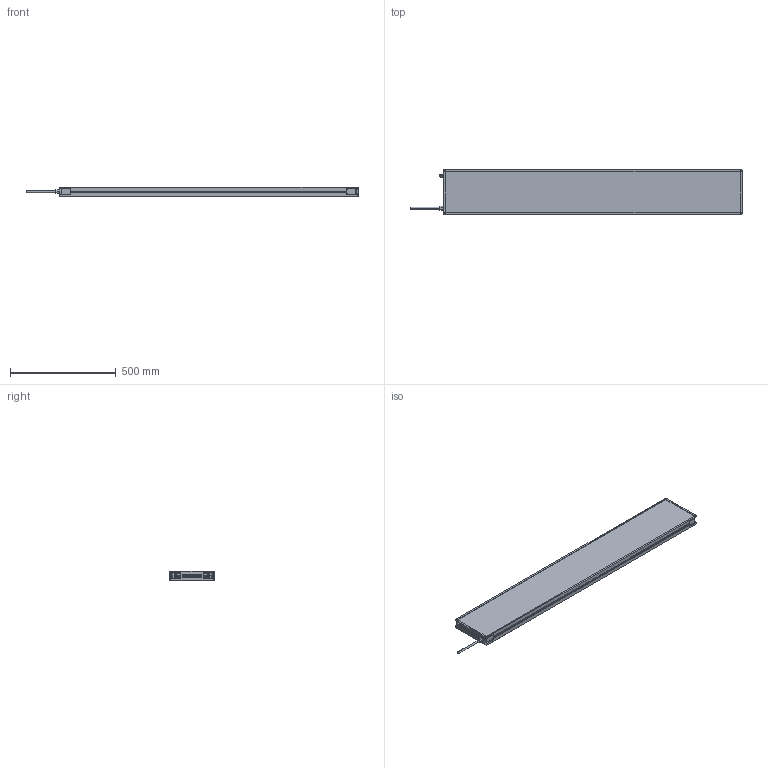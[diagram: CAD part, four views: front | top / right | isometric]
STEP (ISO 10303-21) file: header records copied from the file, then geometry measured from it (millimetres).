
FILE_DESCRIPTION (( 'STEP AP214' ), '1' );
FILE_NAME ('MBACK-xxxx-xxx-M1A2_CLIENT200x1400.STEP', '2022-04-01T11:30:05', ( '' ), ( '' ), 'SwSTEP 2.0', 'SolidWorks 2020', '' );
FILE_SCHEMA (( 'AUTOMOTIVE_DESIGN' ));
Length unit declared in the file: millimetre
Products named in the file (1): MBACK-xxxx-xxx-M1A2_CLIENT200x1400
Bounding box: 1567.4 x 208 x 45.5 mm (x, y, z)
Volume: 12137097.2 mm3; surface area: 806321.2 mm2
Topology: 1 solids, 1 shells, 470 faces, 1210 edges, 804 vertices
Faces by surface type: plane 265, cylinder 117, bspline 80, cone 8
Entity records: 18046 total; most frequent: CARTESIAN_POINT 6837, ORIENTED_EDGE 2420, DIRECTION 2082, EDGE_CURVE 1210, VERTEX_POINT 804, LINE 800, VECTOR 800, AXIS2_PLACEMENT_3D 641
